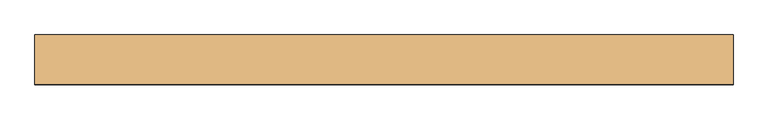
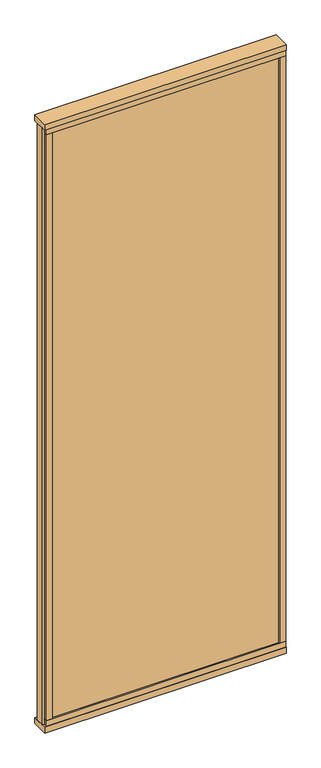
"""IFC4 building model written with IfcOpenShell, lengths in millimetres: door geometry, Mobiliário_Mobiliário de Escritório_Painel de Vidro Duplo - AVT E AVL (Complementar)_Marelli : AVT - Temperado."""

import ifcopenshell
import ifcopenshell.guid

model = None  # the IFC model being written
_history = None  # IfcOwnerHistory: only IFC2X3 demands one
_inside = {}  # id of a spatial element -> (the spatial element, [elements in it])
_under = {}  # id of a project, library or spatial element -> (it, [spatial elements below it])
_declared = {}  # id of a project -> (the project, [libraries it declares])
_typed = {}  # id of a type object -> (the type object, [elements of that type])
_made_of = {}  # id of a material, layer set ... -> (it, [elements and type objects made of it])


def new_model(schema):
    """Start an empty IFC model of exactly this schema.

    Asked for "IFC4X3", IfcOpenShell would pick the latest addendum, in which some entities
    have other attributes; the version numbers below select the first issue.
    IFC2X3 requires an IfcOwnerHistory on every rooted entity: one is made here for all.
    """
    global model, _history
    if schema == "IFC4X3":
        model = ifcopenshell.file(schema_version=(4, 3, 0, 0))
    else:
        model = ifcopenshell.file(schema=schema)
    _inside.clear()
    _under.clear()
    _declared.clear()
    _typed.clear()
    _made_of.clear()
    _history = None
    if model.schema == "IFC2X3":
        org = make("IfcOrganization", Name="unknown")
        user = make(
            "IfcPersonAndOrganization",
            ThePerson=make("IfcPerson", FamilyName="unknown"),
            TheOrganization=org,
        )
        app = make(
            "IfcApplication",
            ApplicationDeveloper=org,
            Version="unknown",
            ApplicationFullName="unknown",
            ApplicationIdentifier="unknown",
        )
        _history = make(
            "IfcOwnerHistory",
            OwningUser=user,
            OwningApplication=app,
            ChangeAction="ADDED",
            CreationDate=0,
        )
    return model


def make(cls, **values):
    """One entity of the class cls with the attributes given. An attribute that is None is left unset."""
    return model.create_entity(
        cls, **{name: value for name, value in values.items() if value is not None}
    )


def rooted(cls, **values):
    """An entity with a GlobalId (a new one), such as an element, a storey or a relation."""
    return make(cls, GlobalId=ifcopenshell.guid.new(), OwnerHistory=_history, **values)


def si_unit(unit_type, name, prefix=None):
    """IfcSIUnit, for example si_unit("LENGTHUNIT", "METRE", prefix="MILLI")."""
    return make("IfcSIUnit", UnitType=unit_type, Prefix=prefix, Name=name)


def assignment(units):
    """IfcUnitAssignment: the units of a project."""
    return None if units is None else make("IfcUnitAssignment", Units=units)


def point(xyz):
    """IfcCartesianPoint."""
    return None if xyz is None else make("IfcCartesianPoint", Coordinates=xyz)


def direction(xyz):
    """IfcDirection."""
    return None if xyz is None else make("IfcDirection", DirectionRatios=xyz)


def frame(location, z_axis=None, x_axis=None):
    """IfcAxis2Placement3D, a coordinate frame: its origin and axes. An axis left out is left unset."""
    return make(
        "IfcAxis2Placement3D",
        Location=point(location),
        Axis=direction(z_axis),
        RefDirection=direction(x_axis),
    )


def origin():
    """The frame at (0, 0, 0) with its axes left unset."""
    return frame((0.0, 0.0, 0.0))


def origin_with_axes():
    """The frame at (0, 0, 0) with the z axis (0, 0, 1) and the x axis (1, 0, 0) written out."""
    return frame((0.0, 0.0, 0.0), z_axis=(0.0, 0.0, 1.0), x_axis=(1.0, 0.0, 0.0))


def place(relative_to, where):
    """IfcLocalPlacement: puts the frame where relative to a parent placement (None: the world)."""
    return make(
        "IfcLocalPlacement", PlacementRelTo=relative_to, RelativePlacement=where
    )


def context(
    kind, dimensions, precision=None, world=None, true_north=None, identifier=None
):
    """IfcGeometricRepresentationContext, for example the 3D "Model" context."""
    return make(
        "IfcGeometricRepresentationContext",
        ContextIdentifier=identifier,
        ContextType=kind,
        CoordinateSpaceDimension=dimensions,
        Precision=precision,
        WorldCoordinateSystem=world,
        TrueNorth=true_north,
    )


def project(units=None, contexts=None):
    """IfcProject with its units and contexts."""
    return rooted(
        "IfcProject",
        Name="project",
        RepresentationContexts=contexts,
        UnitsInContext=assignment(units),
    )


def spatial(cls, under=None, at=None, **own):
    """A site, building, storey or space (cls), placed at a placement, below another one or the project."""
    s = rooted(cls, ObjectPlacement=at, **own)
    if under is not None:
        _under.setdefault(under.id(), (under, []))[1].append(s)
    return s


def polyline(points):
    """IfcPolyline through the points."""
    return make("IfcPolyline", Points=[point(p) for p in points])


def outline(outer, holes=None, kind="AREA"):
    """IfcArbitraryClosedProfileDef: a profile drawn as a closed curve; with holes, ...WithVoids."""
    if holes is None:
        return make("IfcArbitraryClosedProfileDef", ProfileType=kind, OuterCurve=outer)
    return make(
        "IfcArbitraryProfileDefWithVoids",
        ProfileType=kind,
        OuterCurve=outer,
        InnerCurves=holes,
    )


def extrude(swept, where, along, depth):
    """IfcExtrudedAreaSolid: the profile swept, set in the frame where, extruded along a direction by depth."""
    return make(
        "IfcExtrudedAreaSolid",
        SweptArea=swept,
        Position=where,
        ExtrudedDirection=direction(along),
        Depth=depth,
    )


def shape(context_of_items, identifier, shape_type, items):
    """IfcShapeRepresentation: the items that make up one representation, for example the "Body"."""
    return make(
        "IfcShapeRepresentation",
        ContextOfItems=context_of_items,
        RepresentationIdentifier=identifier,
        RepresentationType=shape_type,
        Items=items,
    )


def source(mapping_origin, context_of_items, identifier, shape_type, items):
    """IfcRepresentationMap: a shape defined once, which mapped items show again and again."""
    return make(
        "IfcRepresentationMap",
        MappingOrigin=mapping_origin,
        MappedRepresentation=shape(context_of_items, identifier, shape_type, items),
    )


def transform(
    local_origin,
    x_axis=None,
    y_axis=None,
    z_axis=None,
    scale=None,
    scale2=None,
    scale3=None,
    uniform=True,
):
    """IfcCartesianTransformationOperator3D, or its non-uniform kind. x_axis, y_axis, z_axis: its Axis1, 2, 3."""
    if uniform:
        return make(
            "IfcCartesianTransformationOperator3D",
            Axis1=direction(x_axis),
            Axis2=direction(y_axis),
            LocalOrigin=point(local_origin),
            Scale=scale,
            Axis3=direction(z_axis),
        )
    return make(
        "IfcCartesianTransformationOperator3DnonUniform",
        Axis1=direction(x_axis),
        Axis2=direction(y_axis),
        LocalOrigin=point(local_origin),
        Scale=scale,
        Axis3=direction(z_axis),
        Scale2=scale2,
        Scale3=scale3,
    )


def mapped(mapping_source, mapping_target):
    """IfcMappedItem: shows the shape of a source again, moved by a transform."""
    return make(
        "IfcMappedItem", MappingSource=mapping_source, MappingTarget=mapping_target
    )


def made_of(thing, what):
    """Note that an element or type object is made of a material, layer set ...; save() writes the relation."""
    if what is not None:
        _made_of.setdefault(what.id(), (what, []))[1].append(thing)
    return thing


def element(
    cls,
    number,
    at=None,
    inside=None,
    cuts=None,
    type_object=None,
    material=None,
    context=None,
    identifier="Body",
    shape_type=None,
    held_by="IfcProductDefinitionShape",
    body=None,
    shapes=None,
    **own,
):
    """One element of the class cls, such as IfcWall. Its Tag is "e" and its number.

    at: its placement. inside: the storey or other place that contains it. cuts: it is an
    opening in that element (IfcRelVoidsElement). A single representation is given by context,
    identifier, shape_type and body (its items); several are given by shapes. held_by: the class
    of the entity that holds the representations. save() writes the other relations.
    """
    e = rooted(cls, Tag="e%d" % number, ObjectPlacement=at, **own)
    if body is not None:
        shapes = [shape(context, identifier, shape_type, body)]
    if shapes is not None:
        e.Representation = make(held_by, Representations=shapes)
    if inside is not None:
        _inside.setdefault(inside.id(), (inside, []))[1].append(e)
    if cuts is not None:
        rooted(
            "IfcRelVoidsElement", RelatingBuildingElement=cuts, RelatedOpeningElement=e
        )
    if type_object is not None:
        _typed.setdefault(type_object.id(), (type_object, []))[1].append(e)
    return made_of(e, material)


def aggregate(whole, parts):
    """IfcRelAggregates: a whole, such as a stair, and the parts it consists of."""
    return rooted("IfcRelAggregates", RelatingObject=whole, RelatedObjects=parts)


def save(model, path):
    """Write the relations noted so far, then the file.

    IfcRelAggregates (storeys below a building ...), IfcRelContainedInSpatialStructure (elements
    in a storey), IfcRelDefinesByType, IfcRelAssociatesMaterial and IfcRelDeclares: one each for
    every whole, place, type object, material and project.
    """
    for whole, parts in _under.values():
        aggregate(whole, parts)
    for where, things in _inside.values():
        rooted(
            "IfcRelContainedInSpatialStructure",
            RelatedElements=things,
            RelatingStructure=where,
        )
    for kind, things in _typed.values():
        rooted("IfcRelDefinesByType", RelatedObjects=things, RelatingType=kind)
    for what, things in _made_of.values():
        rooted("IfcRelAssociatesMaterial", RelatedObjects=things, RelatingMaterial=what)
    for by, libraries in _declared.values():
        rooted("IfcRelDeclares", RelatingContext=by, RelatedDefinitions=libraries)
    model.write(path)


def door_789db9e8(model_context):
    return source(origin(), model_context, "Body", "SweptSolid", [
        extrude(outline(polyline([(600.0, 42.5), (600.0, -42.5), (-600.0, -42.5), (-600.0, 42.5), (600.0, 42.5)])), origin_with_axes(), (0.0, 0.0, 1.0), 30.0),
        extrude(outline(polyline([(600.0, 39.5), (600.0, -39.5), (-590.0, -39.5), (-590.0, 39.5), (600.0, 39.5)])), frame((0.0, 0.0, 30.0), z_axis=(0.0, 0.0, 1.0), x_axis=(1.0, 0.0, 0.0)), (0.0, 0.0, 1.0), 30.0),
        extrude(outline(polyline([(600.0, 42.5), (600.0, -42.5), (-600.0, -42.5), (-600.0, 42.5), (600.0, 42.5)])), frame((0.0, 0.0, 3170.0), z_axis=(0.0, 0.0, 1.0), x_axis=(1.0, 0.0, 0.0)), (0.0, 0.0, 1.0), 30.0),
        extrude(outline(polyline([(600.0, 39.5), (600.0, -39.5), (-590.0, -39.5), (-590.0, 39.5), (600.0, 39.5)])), frame((0.0, 0.0, 3140.0), z_axis=(0.0, 0.0, 1.0), x_axis=(1.0, 0.0, 0.0)), (0.0, 0.0, 1.0), 30.0),
        extrude(outline(polyline([(570.0, 39.5), (600.0, 39.5), (600.0, -39.5), (570.0, -39.5), (570.0, 39.5)])), frame((0.0, 0.0, 60.0), z_axis=(0.0, 0.0, 1.0), x_axis=(1.0, 0.0, 0.0)), (0.0, 0.0, 1.0), 3080.0),
        extrude(outline(polyline([(-560.0, 39.5), (-560.0, -39.5), (-590.0, -39.5), (-590.0, 39.5), (-560.0, 39.5)])), frame((0.0, 0.0, 60.0), z_axis=(0.0, 0.0, 1.0), x_axis=(1.0, 0.0, 0.0)), (0.0, 0.0, 1.0), 3080.0),
        extrude(outline(polyline([(-600.0, -21.5), (-600.0, 21.5), (-590.0, 21.5), (-590.0, -21.5), (-600.0, -21.5)])), frame((0.0, 0.0, 30.0), z_axis=(0.0, 0.0, 1.0), x_axis=(1.0, 0.0, 0.0)), (0.0, 0.0, 1.0), 3140.0),
        extrude(outline(polyline([(570.0, -25.5), (570.0, -31.5), (-560.0, -31.5), (-560.0, -25.5), (570.0, -25.5)])), frame((0.0, 0.0, 60.0), z_axis=(0.0, 0.0, 1.0), x_axis=(1.0, 0.0, 0.0)), (0.0, 0.0, 1.0), 3080.0),
        extrude(outline(polyline([(570.0, 31.5), (570.0, 25.5), (-560.0, 25.5), (-560.0, 31.5), (570.0, 31.5)])), frame((0.0, 0.0, 60.0), z_axis=(0.0, 0.0, 1.0), x_axis=(1.0, 0.0, 0.0)), (0.0, 0.0, 1.0), 3080.0),
    ])


if __name__ == "__main__":
    model = new_model("IFC4")
    model_context = context("Model", 3, world=origin())
    ifc_project = project(units=[si_unit("LENGTHUNIT", "METRE", prefix="MILLI")], contexts=[model_context])
    site = spatial("IfcSite", under=ifc_project)
    building = spatial("IfcBuilding", under=site)
    placement = place(None, origin())
    door_shape = door_789db9e8(model_context)
    element("IfcDoor", 1, ObjectType="Mobiliário_Mobiliário de Escritório_Painel de Vidro Duplo - AVT E AVL (Complementar)_Marelli : AVT - Temperado", at=placement, inside=building, context=model_context, shape_type="MappedRepresentation", body=[
        mapped(door_shape, transform((0.0, 0.0, 0.0), x_axis=(1.0, 0.0, 0.0), y_axis=(0.0, 1.0, 0.0), z_axis=(0.0, 0.0, 1.0))),
    ])
    save(model, "model.ifc")
